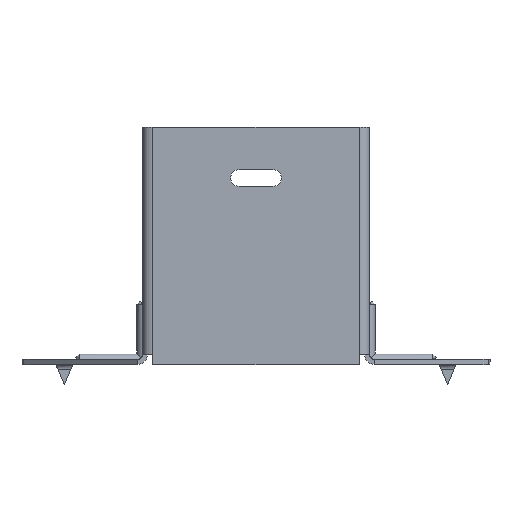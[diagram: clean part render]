
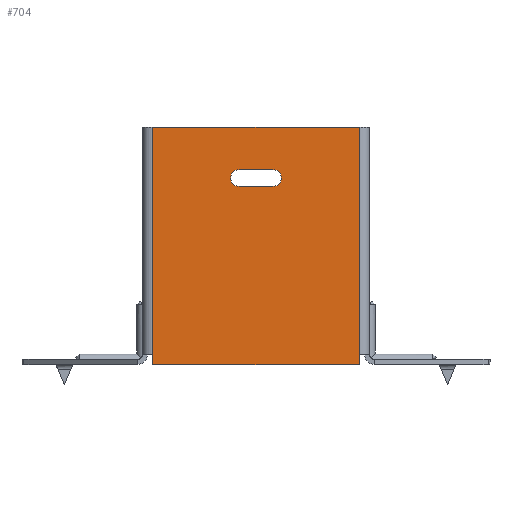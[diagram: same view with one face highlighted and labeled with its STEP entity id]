
A CAD part, front view. The second image highlights one B-rep face of the part: STEP entity #704.
In plain terms, the highlighted planar face has unit normal (0, -1, 0).
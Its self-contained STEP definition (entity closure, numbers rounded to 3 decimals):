
#186 = AXIS2_PLACEMENT_3D ( 'NONE', #4709, #7720, #6195 ) ;
#312 = DIRECTION ( 'NONE',  ( 0., 0., 1. ) ) ;
#471 = VERTEX_POINT ( 'NONE', #5730 ) ;
#562 = VERTEX_POINT ( 'NONE', #1308 ) ;
#566 = ORIENTED_EDGE ( 'NONE', *, *, #1656, .T. ) ;
#679 = LINE ( 'NONE', #5375, #8384 ) ;
#701 = VECTOR ( 'NONE', #2055, 1000. ) ;
#704 = ADVANCED_FACE ( 'NONE', ( #5276, #5052 ), #3064, .F. ) ;
#862 = DIRECTION ( 'NONE',  ( 0., 0., 1. ) ) ;
#1070 = CARTESIAN_POINT ( 'NONE',  ( 30.5, 0., -67. ) ) ;
#1166 = EDGE_CURVE ( 'NONE', #5271, #3487, #679, .T. ) ;
#1308 = CARTESIAN_POINT ( 'NONE',  ( -5., 0., -12.5 ) ) ;
#1576 = VECTOR ( 'NONE', #9443, 1000. ) ;
#1656 = EDGE_CURVE ( 'NONE', #8111, #562, #3750, .T. ) ;
#1726 = ORIENTED_EDGE ( 'NONE', *, *, #6073, .F. ) ;
#1919 = ORIENTED_EDGE ( 'NONE', *, *, #2431, .T. ) ;
#2055 = DIRECTION ( 'NONE',  ( -1., 0., 0. ) ) ;
#2431 = EDGE_CURVE ( 'NONE', #562, #8208, #6824, .T. ) ;
#2497 = DIRECTION ( 'NONE',  ( -1., 0., 0. ) ) ;
#2533 = LINE ( 'NONE', #2739, #1576 ) ;
#2606 = CARTESIAN_POINT ( 'NONE',  ( 30.5, 0., -70. ) ) ;
#2623 = VECTOR ( 'NONE', #312, 1000. ) ;
#2739 = CARTESIAN_POINT ( 'NONE',  ( -30.5, 0., 0. ) ) ;
#2895 = AXIS2_PLACEMENT_3D ( 'NONE', #5040, #9297, #4829 ) ;
#3011 = ORIENTED_EDGE ( 'NONE', *, *, #4350, .T. ) ;
#3064 = PLANE ( 'NONE',  #2895 ) ;
#3078 = CARTESIAN_POINT ( 'NONE',  ( -30.5, 0., -67. ) ) ;
#3200 = VERTEX_POINT ( 'NONE', #9506 ) ;
#3258 = CARTESIAN_POINT ( 'NONE',  ( 5., 0., -12.5 ) ) ;
#3477 = VERTEX_POINT ( 'NONE', #1070 ) ;
#3487 = VERTEX_POINT ( 'NONE', #9279 ) ;
#3522 = ORIENTED_EDGE ( 'NONE', *, *, #4870, .T. ) ;
#3750 = CIRCLE ( 'NONE', #186, 2.5 ) ;
#3856 = CARTESIAN_POINT ( 'NONE',  ( 30.5, 0., -70. ) ) ;
#3861 = CARTESIAN_POINT ( 'NONE',  ( -5., 0., -17.5 ) ) ;
#4036 = ORIENTED_EDGE ( 'NONE', *, *, #7203, .F. ) ;
#4149 = CARTESIAN_POINT ( 'NONE',  ( 30.5, 0., 0. ) ) ;
#4310 = CARTESIAN_POINT ( 'NONE',  ( -32., 0., -70. ) ) ;
#4350 = EDGE_CURVE ( 'NONE', #3477, #5770, #9169, .T. ) ;
#4408 = CARTESIAN_POINT ( 'NONE',  ( -5., 0., -17.5 ) ) ;
#4449 = EDGE_CURVE ( 'NONE', #471, #5271, #2533, .T. ) ;
#4503 = ORIENTED_EDGE ( 'NONE', *, *, #6664, .T. ) ;
#4657 = DIRECTION ( 'NONE',  ( 0., 0., 1. ) ) ;
#4709 = CARTESIAN_POINT ( 'NONE',  ( -5., 0., -15. ) ) ;
#4829 = DIRECTION ( 'NONE',  ( 0., 0., 1. ) ) ;
#4870 = EDGE_CURVE ( 'NONE', #3200, #8111, #6699, .T. ) ;
#5040 = CARTESIAN_POINT ( 'NONE',  ( 0., 0., 0. ) ) ;
#5052 = FACE_OUTER_BOUND ( 'NONE', #8946, .T. ) ;
#5068 = LINE ( 'NONE', #7547, #9129 ) ;
#5271 = VERTEX_POINT ( 'NONE', #3078 ) ;
#5276 = FACE_BOUND ( 'NONE', #7854, .T. ) ;
#5375 = CARTESIAN_POINT ( 'NONE',  ( -30.5, 0., 0. ) ) ;
#5564 = EDGE_CURVE ( 'NONE', #8208, #3200, #6586, .T. ) ;
#5730 = CARTESIAN_POINT ( 'NONE',  ( -30.5, 0., 0. ) ) ;
#5770 = VERTEX_POINT ( 'NONE', #4149 ) ;
#6007 = CARTESIAN_POINT ( 'NONE',  ( 5., 0., -15. ) ) ;
#6073 = EDGE_CURVE ( 'NONE', #471, #5770, #5068, .T. ) ;
#6195 = DIRECTION ( 'NONE',  ( 0., 0., 1. ) ) ;
#6511 = VECTOR ( 'NONE', #4657, 1000. ) ;
#6586 = CIRCLE ( 'NONE', #8602, 2.5 ) ;
#6664 = EDGE_CURVE ( 'NONE', #9363, #3477, #7611, .T. ) ;
#6699 = LINE ( 'NONE', #3861, #7068 ) ;
#6824 = LINE ( 'NONE', #8618, #8580 ) ;
#6867 = DIRECTION ( 'NONE',  ( 0., 1., 0. ) ) ;
#7068 = VECTOR ( 'NONE', #2497, 1000. ) ;
#7203 = EDGE_CURVE ( 'NONE', #9363, #3487, #7959, .T. ) ;
#7519 = ORIENTED_EDGE ( 'NONE', *, *, #1166, .T. ) ;
#7547 = CARTESIAN_POINT ( 'NONE',  ( -32., 0., 0. ) ) ;
#7611 = LINE ( 'NONE', #2606, #2623 ) ;
#7720 = DIRECTION ( 'NONE',  ( 0., 1., 0. ) ) ;
#7854 = EDGE_LOOP ( 'NONE', ( #3522, #566, #1919, #9221 ) ) ;
#7917 = DIRECTION ( 'NONE',  ( 1., 0., 0. ) ) ;
#7959 = LINE ( 'NONE', #4310, #701 ) ;
#8111 = VERTEX_POINT ( 'NONE', #4408 ) ;
#8208 = VERTEX_POINT ( 'NONE', #3258 ) ;
#8317 = DIRECTION ( 'NONE',  ( 1., 0., 0. ) ) ;
#8343 = DIRECTION ( 'NONE',  ( 0., 0., -1. ) ) ;
#8373 = CARTESIAN_POINT ( 'NONE',  ( 30.5, 0., -70. ) ) ;
#8384 = VECTOR ( 'NONE', #8343, 1000. ) ;
#8580 = VECTOR ( 'NONE', #7917, 1000. ) ;
#8602 = AXIS2_PLACEMENT_3D ( 'NONE', #6007, #6867, #862 ) ;
#8618 = CARTESIAN_POINT ( 'NONE',  ( -5., 0., -12.5 ) ) ;
#8946 = EDGE_LOOP ( 'NONE', ( #9272, #7519, #4036, #4503, #3011, #1726 ) ) ;
#9129 = VECTOR ( 'NONE', #8317, 1000. ) ;
#9169 = LINE ( 'NONE', #8373, #6511 ) ;
#9221 = ORIENTED_EDGE ( 'NONE', *, *, #5564, .T. ) ;
#9272 = ORIENTED_EDGE ( 'NONE', *, *, #4449, .T. ) ;
#9279 = CARTESIAN_POINT ( 'NONE',  ( -30.5, 0., -70. ) ) ;
#9297 = DIRECTION ( 'NONE',  ( 0., 1., 0. ) ) ;
#9363 = VERTEX_POINT ( 'NONE', #3856 ) ;
#9443 = DIRECTION ( 'NONE',  ( 0., 0., -1. ) ) ;
#9506 = CARTESIAN_POINT ( 'NONE',  ( 5., 0., -17.5 ) ) ;
